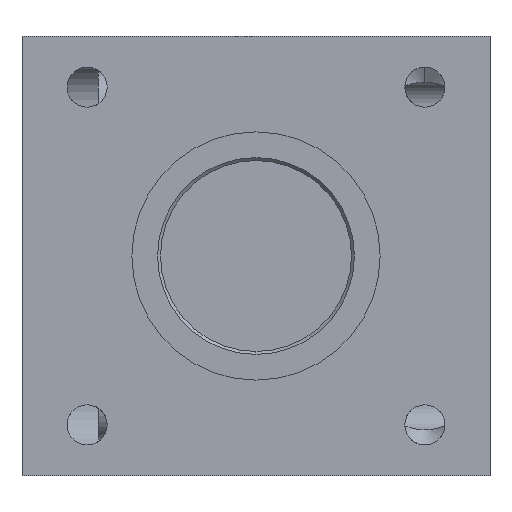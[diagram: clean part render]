
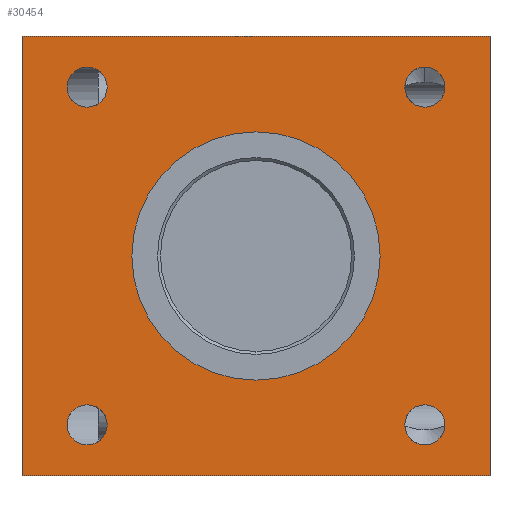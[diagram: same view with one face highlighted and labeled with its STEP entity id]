
A CAD part, left-side view. The second image highlights one B-rep face of the part: STEP entity #30454.
In plain terms, the highlighted planar face has unit normal (-1, 0, 0).
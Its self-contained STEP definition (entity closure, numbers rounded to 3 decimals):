
#254 = CIRCLE ( 'NONE', #1012, 2.1 ) ;
#353 = ORIENTED_EDGE ( 'NONE', *, *, #10297, .F. ) ;
#856 = AXIS2_PLACEMENT_3D ( 'NONE', #4812, #21314, #7141 ) ;
#911 = DIRECTION ( 'NONE',  ( 0., 0., 1. ) ) ;
#940 = CARTESIAN_POINT ( 'NONE',  ( 0., 24.5, 23. ) ) ;
#1012 = AXIS2_PLACEMENT_3D ( 'NONE', #1311, #17812, #3692 ) ;
#1175 = CARTESIAN_POINT ( 'NONE',  ( 0., 17.68, 15.58 ) ) ;
#1311 = CARTESIAN_POINT ( 'NONE',  ( 0., 17.68, -17.68 ) ) ;
#1919 = CARTESIAN_POINT ( 'NONE',  ( 0., -24.5, 23. ) ) ;
#2246 = AXIS2_PLACEMENT_3D ( 'NONE', #8884, #25328, #11240 ) ;
#2281 = CARTESIAN_POINT ( 'NONE',  ( 0., -24.5, 23. ) ) ;
#2318 = ORIENTED_EDGE ( 'NONE', *, *, #17394, .F. ) ;
#2373 = CARTESIAN_POINT ( 'NONE',  ( 0., 0., 0. ) ) ;
#2892 = CARTESIAN_POINT ( 'NONE',  ( 0., -17.68, 19.78 ) ) ;
#3183 = ORIENTED_EDGE ( 'NONE', *, *, #9303, .F. ) ;
#3282 = AXIS2_PLACEMENT_3D ( 'NONE', #21629, #7444, #23987 ) ;
#3692 = DIRECTION ( 'NONE',  ( 0., 0., 1. ) ) ;
#3717 = CARTESIAN_POINT ( 'NONE',  ( 0., -17.68, 17.68 ) ) ;
#4172 = AXIS2_PLACEMENT_3D ( 'NONE', #10776, #27203, #13146 ) ;
#4468 = EDGE_CURVE ( 'NONE', #19317, #22341, #26727, .T. ) ;
#4730 = DIRECTION ( 'NONE',  ( 0., 0., 1. ) ) ;
#4777 = DIRECTION ( 'NONE',  ( 0., 1., 0. ) ) ;
#4812 = CARTESIAN_POINT ( 'NONE',  ( 0., 0., 0. ) ) ;
#4975 = VERTEX_POINT ( 'NONE', #2892 ) ;
#5089 = CIRCLE ( 'NONE', #2246, 2.1 ) ;
#5201 = FACE_BOUND ( 'NONE', #28054, .T. ) ;
#5723 = CARTESIAN_POINT ( 'NONE',  ( 0., -17.68, -17.68 ) ) ;
#5891 = EDGE_LOOP ( 'NONE', ( #353, #19766 ) ) ;
#6042 = CARTESIAN_POINT ( 'NONE',  ( 0., 17.68, -19.78 ) ) ;
#6058 = DIRECTION ( 'NONE',  ( 0., 0., 1. ) ) ;
#6141 = DIRECTION ( 'NONE',  ( -1., 0., 0. ) ) ;
#6195 = LINE ( 'NONE', #6900, #30426 ) ;
#6237 = ORIENTED_EDGE ( 'NONE', *, *, #19404, .F. ) ;
#6493 = CIRCLE ( 'NONE', #4172, 2.1 ) ;
#6691 = EDGE_LOOP ( 'NONE', ( #27688, #13136 ) ) ;
#6900 = CARTESIAN_POINT ( 'NONE',  ( 0., 24.5, 23. ) ) ;
#7039 = CIRCLE ( 'NONE', #18648, 2.1 ) ;
#7141 = DIRECTION ( 'NONE',  ( 0., 0., 1. ) ) ;
#7444 = DIRECTION ( 'NONE',  ( -1., 0., 0. ) ) ;
#7770 = EDGE_CURVE ( 'NONE', #18640, #16337, #21707, .T. ) ;
#8089 = DIRECTION ( 'NONE',  ( 0., 0., 1. ) ) ;
#8884 = CARTESIAN_POINT ( 'NONE',  ( 0., 17.68, 17.68 ) ) ;
#8898 = ORIENTED_EDGE ( 'NONE', *, *, #24282, .F. ) ;
#9023 = LINE ( 'NONE', #12381, #14551 ) ;
#9195 = CARTESIAN_POINT ( 'NONE',  ( 0., 0., -13. ) ) ;
#9295 = DIRECTION ( 'NONE',  ( 0., 0., 1. ) ) ;
#9303 = EDGE_CURVE ( 'NONE', #22318, #20211, #9023, .T. ) ;
#9788 = CARTESIAN_POINT ( 'NONE',  ( 0., -17.68, -19.78 ) ) ;
#10297 = EDGE_CURVE ( 'NONE', #26499, #28626, #13343, .T. ) ;
#10312 = EDGE_LOOP ( 'NONE', ( #22208, #8898 ) ) ;
#10716 = FACE_OUTER_BOUND ( 'NONE', #29855, .T. ) ;
#10776 = CARTESIAN_POINT ( 'NONE',  ( 0., 17.68, 17.68 ) ) ;
#11240 = DIRECTION ( 'NONE',  ( 0., 0., 1. ) ) ;
#11358 = ORIENTED_EDGE ( 'NONE', *, *, #4468, .F. ) ;
#11652 = AXIS2_PLACEMENT_3D ( 'NONE', #3717, #20217, #6058 ) ;
#12155 = CARTESIAN_POINT ( 'NONE',  ( 0., 17.68, -15.58 ) ) ;
#12177 = DIRECTION ( 'NONE',  ( -1., 0., 0. ) ) ;
#12381 = CARTESIAN_POINT ( 'NONE',  ( 0., -24.5, -23. ) ) ;
#12608 = CARTESIAN_POINT ( 'NONE',  ( 0., -17.68, -15.58 ) ) ;
#13136 = ORIENTED_EDGE ( 'NONE', *, *, #19254, .F. ) ;
#13146 = DIRECTION ( 'NONE',  ( 0., 0., 1. ) ) ;
#13244 = CARTESIAN_POINT ( 'NONE',  ( 0., 0., 13. ) ) ;
#13343 = CIRCLE ( 'NONE', #27103, 2.1 ) ;
#13772 = VERTEX_POINT ( 'NONE', #27708 ) ;
#13916 = ORIENTED_EDGE ( 'NONE', *, *, #18419, .F. ) ;
#13946 = EDGE_CURVE ( 'NONE', #28626, #26499, #22079, .T. ) ;
#14112 = CARTESIAN_POINT ( 'NONE',  ( 0., -24.5, 23. ) ) ;
#14551 = VECTOR ( 'NONE', #4777, 1000. ) ;
#14866 = CIRCLE ( 'NONE', #11652, 2.1 ) ;
#15067 = DIRECTION ( 'NONE',  ( -1., 0., 0. ) ) ;
#16337 = VERTEX_POINT ( 'NONE', #14112 ) ;
#16383 = DIRECTION ( 'NONE',  ( 0., 0., -1. ) ) ;
#17010 = FACE_BOUND ( 'NONE', #5891, .T. ) ;
#17394 = EDGE_CURVE ( 'NONE', #4975, #30159, #14866, .T. ) ;
#17529 = CARTESIAN_POINT ( 'NONE',  ( 0., -17.68, 15.58 ) ) ;
#17750 = FACE_BOUND ( 'NONE', #10312, .T. ) ;
#17812 = DIRECTION ( 'NONE',  ( -1., 0., 0. ) ) ;
#18062 = AXIS2_PLACEMENT_3D ( 'NONE', #20290, #6141, #22651 ) ;
#18419 = EDGE_CURVE ( 'NONE', #20211, #18640, #6195, .T. ) ;
#18640 = VERTEX_POINT ( 'NONE', #940 ) ;
#18648 = AXIS2_PLACEMENT_3D ( 'NONE', #29040, #15067, #911 ) ;
#18868 = DIRECTION ( 'NONE',  ( -1., 0., 0. ) ) ;
#18982 = EDGE_CURVE ( 'NONE', #22341, #19317, #23852, .T. ) ;
#19254 = EDGE_CURVE ( 'NONE', #30295, #27353, #254, .T. ) ;
#19275 = EDGE_CURVE ( 'NONE', #13772, #20178, #6493, .T. ) ;
#19317 = VERTEX_POINT ( 'NONE', #13244 ) ;
#19404 = EDGE_CURVE ( 'NONE', #16337, #22318, #28128, .T. ) ;
#19766 = ORIENTED_EDGE ( 'NONE', *, *, #13946, .F. ) ;
#20178 = VERTEX_POINT ( 'NONE', #1175 ) ;
#20211 = VERTEX_POINT ( 'NONE', #24680 ) ;
#20217 = DIRECTION ( 'NONE',  ( -1., 0., 0. ) ) ;
#20290 = CARTESIAN_POINT ( 'NONE',  ( 0., 17.68, -17.68 ) ) ;
#20946 = CARTESIAN_POINT ( 'NONE',  ( 0., -24.5, -23. ) ) ;
#20951 = VECTOR ( 'NONE', #27687, 1000. ) ;
#21314 = DIRECTION ( 'NONE',  ( -1., 0., 0. ) ) ;
#21559 = ORIENTED_EDGE ( 'NONE', *, *, #18982, .F. ) ;
#21629 = CARTESIAN_POINT ( 'NONE',  ( 0., -17.68, -17.68 ) ) ;
#21707 = LINE ( 'NONE', #1919, #20951 ) ;
#21773 = AXIS2_PLACEMENT_3D ( 'NONE', #26242, #12177, #26137 ) ;
#22045 = ORIENTED_EDGE ( 'NONE', *, *, #28738, .F. ) ;
#22079 = CIRCLE ( 'NONE', #3282, 2.1 ) ;
#22208 = ORIENTED_EDGE ( 'NONE', *, *, #19275, .F. ) ;
#22232 = DIRECTION ( 'NONE',  ( -1., 0., 0. ) ) ;
#22318 = VERTEX_POINT ( 'NONE', #20946 ) ;
#22341 = VERTEX_POINT ( 'NONE', #9195 ) ;
#22541 = CIRCLE ( 'NONE', #18062, 2.1 ) ;
#22651 = DIRECTION ( 'NONE',  ( 0., 0., 1. ) ) ;
#22726 = VECTOR ( 'NONE', #16383, 1000. ) ;
#23254 = FACE_BOUND ( 'NONE', #23871, .T. ) ;
#23852 = CIRCLE ( 'NONE', #27954, 13. ) ;
#23871 = EDGE_LOOP ( 'NONE', ( #2318, #22045 ) ) ;
#23987 = DIRECTION ( 'NONE',  ( 0., 0., 1. ) ) ;
#24282 = EDGE_CURVE ( 'NONE', #20178, #13772, #5089, .T. ) ;
#24680 = CARTESIAN_POINT ( 'NONE',  ( 0., 24.5, -23. ) ) ;
#25328 = DIRECTION ( 'NONE',  ( -1., 0., 0. ) ) ;
#26137 = DIRECTION ( 'NONE',  ( 0., 0., 1. ) ) ;
#26242 = CARTESIAN_POINT ( 'NONE',  ( 0., 0., 0. ) ) ;
#26499 = VERTEX_POINT ( 'NONE', #12608 ) ;
#26727 = CIRCLE ( 'NONE', #21773, 13. ) ;
#27103 = AXIS2_PLACEMENT_3D ( 'NONE', #5723, #22232, #8089 ) ;
#27203 = DIRECTION ( 'NONE',  ( -1., 0., 0. ) ) ;
#27353 = VERTEX_POINT ( 'NONE', #12155 ) ;
#27687 = DIRECTION ( 'NONE',  ( 0., -1., 0. ) ) ;
#27688 = ORIENTED_EDGE ( 'NONE', *, *, #28872, .F. ) ;
#27708 = CARTESIAN_POINT ( 'NONE',  ( 0., 17.68, 19.78 ) ) ;
#27787 = ORIENTED_EDGE ( 'NONE', *, *, #7770, .F. ) ;
#27808 = PLANE ( 'NONE',  #856 ) ;
#27954 = AXIS2_PLACEMENT_3D ( 'NONE', #2373, #18868, #4730 ) ;
#28054 = EDGE_LOOP ( 'NONE', ( #11358, #21559 ) ) ;
#28128 = LINE ( 'NONE', #2281, #22726 ) ;
#28626 = VERTEX_POINT ( 'NONE', #9788 ) ;
#28738 = EDGE_CURVE ( 'NONE', #30159, #4975, #7039, .T. ) ;
#28872 = EDGE_CURVE ( 'NONE', #27353, #30295, #22541, .T. ) ;
#29040 = CARTESIAN_POINT ( 'NONE',  ( 0., -17.68, 17.68 ) ) ;
#29424 = FACE_BOUND ( 'NONE', #6691, .T. ) ;
#29855 = EDGE_LOOP ( 'NONE', ( #3183, #6237, #27787, #13916 ) ) ;
#30159 = VERTEX_POINT ( 'NONE', #17529 ) ;
#30295 = VERTEX_POINT ( 'NONE', #6042 ) ;
#30426 = VECTOR ( 'NONE', #9295, 1000. ) ;
#30454 = ADVANCED_FACE ( 'NONE', ( #5201, #29424, #17750, #23254, #17010, #10716 ), #27808, .T. ) ;
